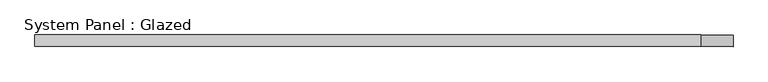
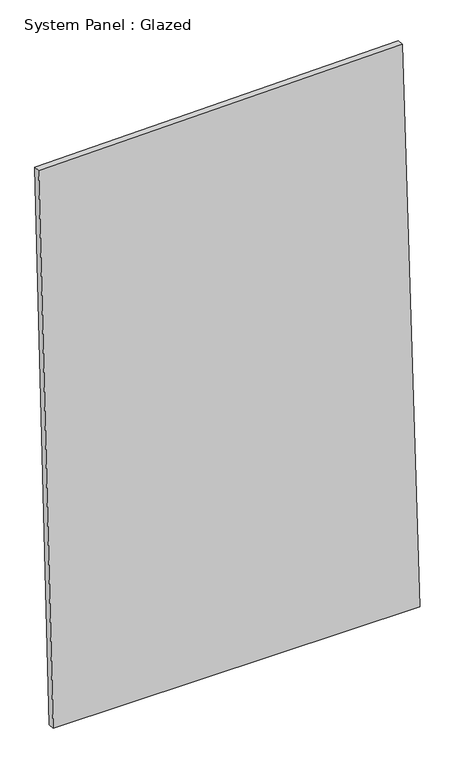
"""IFC4 building model written with IfcOpenShell, lengths in millimetres: plate geometry, System Panel : Glazed."""

import ifcopenshell
import ifcopenshell.guid

model = None  # the IFC model being written
_history = None  # IfcOwnerHistory: only IFC2X3 demands one
_inside = {}  # id of a spatial element -> (the spatial element, [elements in it])
_under = {}  # id of a project, library or spatial element -> (it, [spatial elements below it])
_declared = {}  # id of a project -> (the project, [libraries it declares])
_typed = {}  # id of a type object -> (the type object, [elements of that type])
_made_of = {}  # id of a material, layer set ... -> (it, [elements and type objects made of it])


def new_model(schema):
    """Start an empty IFC model of exactly this schema.

    Asked for "IFC4X3", IfcOpenShell would pick the latest addendum, in which some entities
    have other attributes; the version numbers below select the first issue.
    IFC2X3 requires an IfcOwnerHistory on every rooted entity: one is made here for all.
    """
    global model, _history
    if schema == "IFC4X3":
        model = ifcopenshell.file(schema_version=(4, 3, 0, 0))
    else:
        model = ifcopenshell.file(schema=schema)
    _inside.clear()
    _under.clear()
    _declared.clear()
    _typed.clear()
    _made_of.clear()
    _history = None
    if model.schema == "IFC2X3":
        org = make("IfcOrganization", Name="unknown")
        user = make(
            "IfcPersonAndOrganization",
            ThePerson=make("IfcPerson", FamilyName="unknown"),
            TheOrganization=org,
        )
        app = make(
            "IfcApplication",
            ApplicationDeveloper=org,
            Version="unknown",
            ApplicationFullName="unknown",
            ApplicationIdentifier="unknown",
        )
        _history = make(
            "IfcOwnerHistory",
            OwningUser=user,
            OwningApplication=app,
            ChangeAction="ADDED",
            CreationDate=0,
        )
    return model


def make(cls, **values):
    """One entity of the class cls with the attributes given. An attribute that is None is left unset."""
    return model.create_entity(
        cls, **{name: value for name, value in values.items() if value is not None}
    )


def rooted(cls, **values):
    """An entity with a GlobalId (a new one), such as an element, a storey or a relation."""
    return make(cls, GlobalId=ifcopenshell.guid.new(), OwnerHistory=_history, **values)


def si_unit(unit_type, name, prefix=None):
    """IfcSIUnit, for example si_unit("LENGTHUNIT", "METRE", prefix="MILLI")."""
    return make("IfcSIUnit", UnitType=unit_type, Prefix=prefix, Name=name)


def assignment(units):
    """IfcUnitAssignment: the units of a project."""
    return None if units is None else make("IfcUnitAssignment", Units=units)


def point(xyz):
    """IfcCartesianPoint."""
    return None if xyz is None else make("IfcCartesianPoint", Coordinates=xyz)


def direction(xyz):
    """IfcDirection."""
    return None if xyz is None else make("IfcDirection", DirectionRatios=xyz)


def frame(location, z_axis=None, x_axis=None):
    """IfcAxis2Placement3D, a coordinate frame: its origin and axes. An axis left out is left unset."""
    return make(
        "IfcAxis2Placement3D",
        Location=point(location),
        Axis=direction(z_axis),
        RefDirection=direction(x_axis),
    )


def origin():
    """The frame at (0, 0, 0) with its axes left unset."""
    return frame((0.0, 0.0, 0.0))


def place(relative_to, where):
    """IfcLocalPlacement: puts the frame where relative to a parent placement (None: the world)."""
    return make(
        "IfcLocalPlacement", PlacementRelTo=relative_to, RelativePlacement=where
    )


def context(
    kind, dimensions, precision=None, world=None, true_north=None, identifier=None
):
    """IfcGeometricRepresentationContext, for example the 3D "Model" context."""
    return make(
        "IfcGeometricRepresentationContext",
        ContextIdentifier=identifier,
        ContextType=kind,
        CoordinateSpaceDimension=dimensions,
        Precision=precision,
        WorldCoordinateSystem=world,
        TrueNorth=true_north,
    )


def project(units=None, contexts=None):
    """IfcProject with its units and contexts."""
    return rooted(
        "IfcProject",
        Name="project",
        RepresentationContexts=contexts,
        UnitsInContext=assignment(units),
    )


def spatial(cls, under=None, at=None, **own):
    """A site, building, storey or space (cls), placed at a placement, below another one or the project."""
    s = rooted(cls, ObjectPlacement=at, **own)
    if under is not None:
        _under.setdefault(under.id(), (under, []))[1].append(s)
    return s


def polyline(points):
    """IfcPolyline through the points."""
    return make("IfcPolyline", Points=[point(p) for p in points])


def outline(outer, holes=None, kind="AREA"):
    """IfcArbitraryClosedProfileDef: a profile drawn as a closed curve; with holes, ...WithVoids."""
    if holes is None:
        return make("IfcArbitraryClosedProfileDef", ProfileType=kind, OuterCurve=outer)
    return make(
        "IfcArbitraryProfileDefWithVoids",
        ProfileType=kind,
        OuterCurve=outer,
        InnerCurves=holes,
    )


def extrude(swept, where, along, depth):
    """IfcExtrudedAreaSolid: the profile swept, set in the frame where, extruded along a direction by depth."""
    return make(
        "IfcExtrudedAreaSolid",
        SweptArea=swept,
        Position=where,
        ExtrudedDirection=direction(along),
        Depth=depth,
    )


def shape(context_of_items, identifier, shape_type, items):
    """IfcShapeRepresentation: the items that make up one representation, for example the "Body"."""
    return make(
        "IfcShapeRepresentation",
        ContextOfItems=context_of_items,
        RepresentationIdentifier=identifier,
        RepresentationType=shape_type,
        Items=items,
    )


def source(mapping_origin, context_of_items, identifier, shape_type, items):
    """IfcRepresentationMap: a shape defined once, which mapped items show again and again."""
    return make(
        "IfcRepresentationMap",
        MappingOrigin=mapping_origin,
        MappedRepresentation=shape(context_of_items, identifier, shape_type, items),
    )


def transform(
    local_origin,
    x_axis=None,
    y_axis=None,
    z_axis=None,
    scale=None,
    scale2=None,
    scale3=None,
    uniform=True,
):
    """IfcCartesianTransformationOperator3D, or its non-uniform kind. x_axis, y_axis, z_axis: its Axis1, 2, 3."""
    if uniform:
        return make(
            "IfcCartesianTransformationOperator3D",
            Axis1=direction(x_axis),
            Axis2=direction(y_axis),
            LocalOrigin=point(local_origin),
            Scale=scale,
            Axis3=direction(z_axis),
        )
    return make(
        "IfcCartesianTransformationOperator3DnonUniform",
        Axis1=direction(x_axis),
        Axis2=direction(y_axis),
        LocalOrigin=point(local_origin),
        Scale=scale,
        Axis3=direction(z_axis),
        Scale2=scale2,
        Scale3=scale3,
    )


def mapped(mapping_source, mapping_target):
    """IfcMappedItem: shows the shape of a source again, moved by a transform."""
    return make(
        "IfcMappedItem", MappingSource=mapping_source, MappingTarget=mapping_target
    )


def made_of(thing, what):
    """Note that an element or type object is made of a material, layer set ...; save() writes the relation."""
    if what is not None:
        _made_of.setdefault(what.id(), (what, []))[1].append(thing)
    return thing


def element(
    cls,
    number,
    at=None,
    inside=None,
    cuts=None,
    type_object=None,
    material=None,
    context=None,
    identifier="Body",
    shape_type=None,
    held_by="IfcProductDefinitionShape",
    body=None,
    shapes=None,
    **own,
):
    """One element of the class cls, such as IfcWall. Its Tag is "e" and its number.

    at: its placement. inside: the storey or other place that contains it. cuts: it is an
    opening in that element (IfcRelVoidsElement). A single representation is given by context,
    identifier, shape_type and body (its items); several are given by shapes. held_by: the class
    of the entity that holds the representations. save() writes the other relations.
    """
    e = rooted(cls, Tag="e%d" % number, ObjectPlacement=at, **own)
    if body is not None:
        shapes = [shape(context, identifier, shape_type, body)]
    if shapes is not None:
        e.Representation = make(held_by, Representations=shapes)
    if inside is not None:
        _inside.setdefault(inside.id(), (inside, []))[1].append(e)
    if cuts is not None:
        rooted(
            "IfcRelVoidsElement", RelatingBuildingElement=cuts, RelatedOpeningElement=e
        )
    if type_object is not None:
        _typed.setdefault(type_object.id(), (type_object, []))[1].append(e)
    return made_of(e, material)


def aggregate(whole, parts):
    """IfcRelAggregates: a whole, such as a stair, and the parts it consists of."""
    return rooted("IfcRelAggregates", RelatingObject=whole, RelatedObjects=parts)


def save(model, path):
    """Write the relations noted so far, then the file.

    IfcRelAggregates (storeys below a building ...), IfcRelContainedInSpatialStructure (elements
    in a storey), IfcRelDefinesByType, IfcRelAssociatesMaterial and IfcRelDeclares: one each for
    every whole, place, type object, material and project.
    """
    for whole, parts in _under.values():
        aggregate(whole, parts)
    for where, things in _inside.values():
        rooted(
            "IfcRelContainedInSpatialStructure",
            RelatedElements=things,
            RelatingStructure=where,
        )
    for kind, things in _typed.values():
        rooted("IfcRelDefinesByType", RelatedObjects=things, RelatingType=kind)
    for what, things in _made_of.values():
        rooted("IfcRelAssociatesMaterial", RelatedObjects=things, RelatingMaterial=what)
    for by, libraries in _declared.values():
        rooted("IfcRelDeclares", RelatingContext=by, RelatedDefinitions=libraries)
    model.write(path)


def system_panel_glazed_025133a9(model_context):
    return source(origin(), model_context, "Body", "SweptSolid", [
        extrude(outline(polyline([(0.0, -697.9506159), (0.0, 755.3350865), (2376.608602, 685.2770738), (2352.0404107, -755.3350865), (0.0, -697.9506159)])), frame((0.0, -49.5, 0.0), z_axis=(0.0, 1.0, 0.0), x_axis=(0.0, 0.0, 1.0)), (0.0, 0.0, 1.0), 25.0),
    ])


if __name__ == "__main__":
    model = new_model("IFC4")
    model_context = context("Model", 3, world=origin())
    ifc_project = project(units=[si_unit("LENGTHUNIT", "METRE", prefix="MILLI")], contexts=[model_context])
    site = spatial("IfcSite", under=ifc_project)
    building = spatial("IfcBuilding", under=site)
    placement = place(None, origin())
    system_panel_glazed_shape = system_panel_glazed_025133a9(model_context)
    element("IfcPlate", 1, ObjectType="System Panel : Glazed", at=placement, inside=building, context=model_context, shape_type="MappedRepresentation", body=[
        mapped(system_panel_glazed_shape, transform((0.0, 0.0, 0.0), x_axis=(1.0, 0.0, 0.0), y_axis=(0.0, 1.0, 0.0), z_axis=(0.0, 0.0, 1.0))),
    ])
    save(model, "model.ifc")
